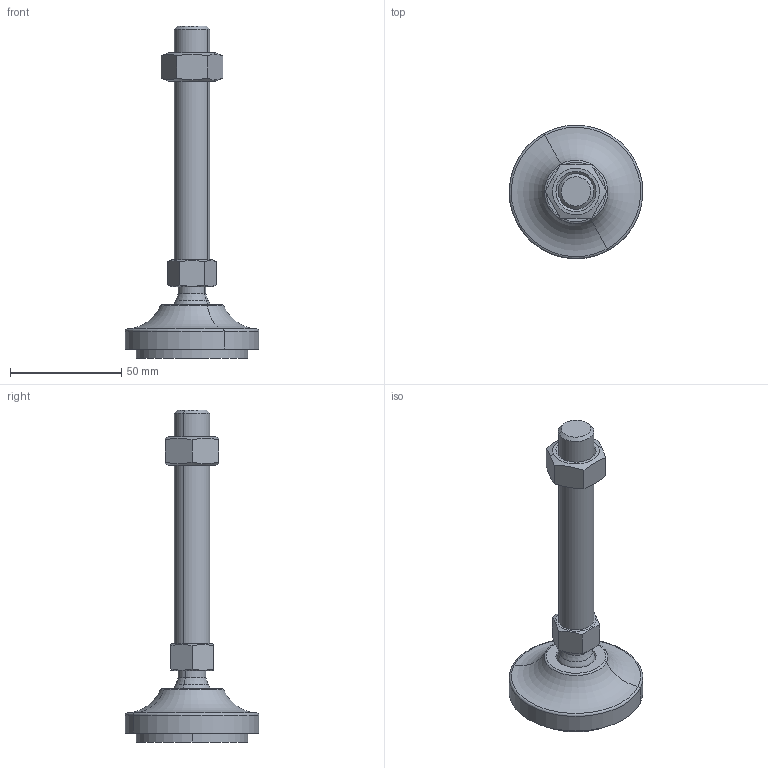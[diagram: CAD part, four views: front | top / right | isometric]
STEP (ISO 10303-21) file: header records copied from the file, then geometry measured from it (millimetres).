
FILE_DESCRIPTION(('CATIA V5 STEP Exchange'),'2;1');
FILE_NAME('C:\Users\ALI OZGUN\Desktop\alhan\saplama2\560601615AV.stp','2017-09-21T10:29:52+00:00',('none'),('none'),'CATIA Version 5 Release 21 GA (IN-10)','CATIA V5 STEP AP203','none');
FILE_SCHEMA(('CONFIG_CONTROL_DESIGN'));
Length unit declared in the file: millimetre
Products named in the file (1): 560601615AV
Bounding box: 59.98 x 59.98 x 149 mm (x, y, z)
Volume: 74402.5 mm3; surface area: 23885.7 mm2
Topology: 4 solids, 4 shells, 64 faces, 142 edges, 87 vertices
Faces by surface type: plane 22, cylinder 16, cone 16, torus 6, revolution 2, sphere 2
Entity records: 1931 total; most frequent: CARTESIAN_POINT 623, ORIENTED_EDGE 280, DIRECTION 198, EDGE_CURVE 140, AXIS2_PLACEMENT_3D 107, VERTEX_POINT 87, EDGE_LOOP 71, ADVANCED_FACE 64
